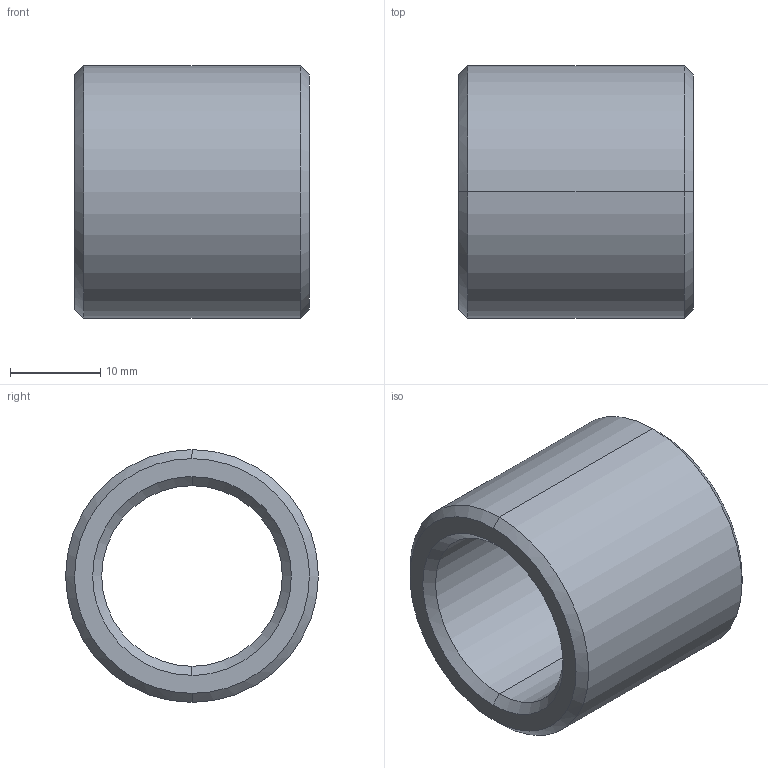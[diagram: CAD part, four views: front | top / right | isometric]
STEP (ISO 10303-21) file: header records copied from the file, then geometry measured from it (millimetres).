
FILE_DESCRIPTION(('CATIA V5 STEP Exchange'),'2;1');
FILE_NAME('C:\Users\Utente\Desktop\IO LAVORO\3D X SITO CF\X SITO\PLASTICA\352\352-20X26.stp','2021-04-12T15:23:43+00:00',('none'),('none'),'CATIA Version 5 Release 20 GA (IN-10)','CATIA V5 STEP AP203','none');
FILE_SCHEMA(('CONFIG_CONTROL_DESIGN'));
Length unit declared in the file: millimetre
Products named in the file (1): 352-20X26
Bounding box: 26 x 28 x 28 mm (x, y, z)
Volume: 7709.3 mm3; surface area: 4356.2 mm2
Topology: 1 solids, 1 shells, 14 faces, 44 edges, 32 vertices
Faces by surface type: cone 6, cylinder 4, plane 2, torus 2
Entity records: 634 total; most frequent: CARTESIAN_POINT 203, ORIENTED_EDGE 88, DIRECTION 64, EDGE_CURVE 44, AXIS2_PLACEMENT_3D 41, VERTEX_POINT 32, CIRCLE 26, EDGE_LOOP 16
